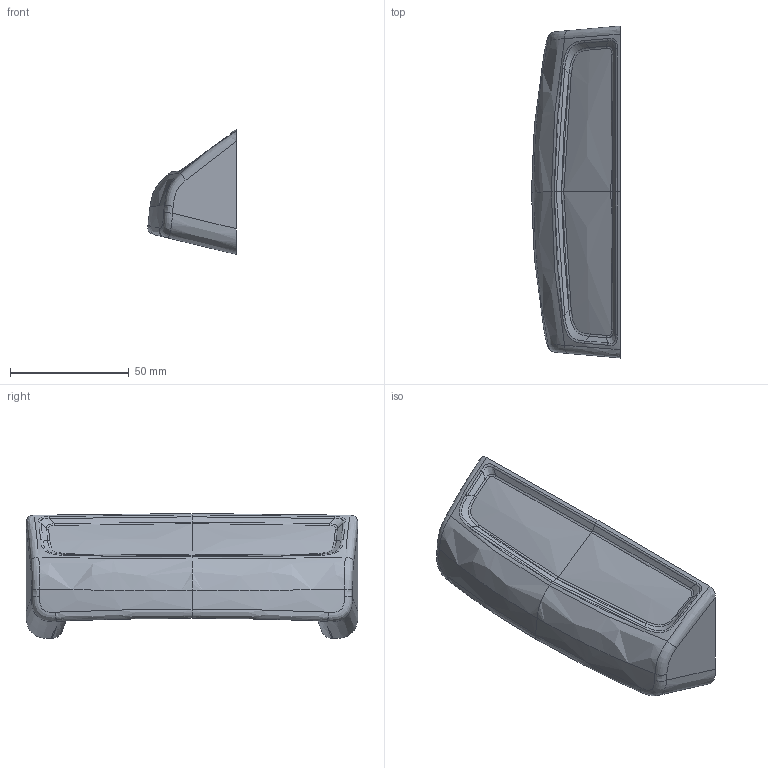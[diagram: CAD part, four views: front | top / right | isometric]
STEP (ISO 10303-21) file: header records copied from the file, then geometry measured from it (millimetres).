
FILE_DESCRIPTION(('CATIA V5 STEP Exchange'),'2;1');
FILE_NAME('C:\Users\Administrator\Desktop\SHT0011968-样件.stp','2020-12-21T02:13:52+00:00',('none'),('none'),'CATIA Version 5 Release 20 GA (IN-10)','CATIA V5 STEP AP214','none');
FILE_SCHEMA(('AUTOMOTIVE_DESIGN { 1 0 10303 214 1 1 1 1 }'));
Products named in the file (1): SHT0011968
Bounding box: 37.14 x 139.53 x 52.51 mm (x, y, z)
Volume: 79816 mm3; surface area: 40116 mm2
Topology: 1 solids, 1 shells, 960 faces, 2539 edges, 1582 vertices
Faces by surface type: bspline 584, cylinder 198, plane 162, torus 16
Entity records: 66268 total; most frequent: CARTESIAN_POINT 48436, ORIENTED_EDGE 5076, EDGE_CURVE 2538, B_SPLINE_CURVE_WITH_KNOTS 1806, VERTEX_POINT 1580, DIRECTION 1285, EDGE_LOOP 972, ADVANCED_FACE 960
